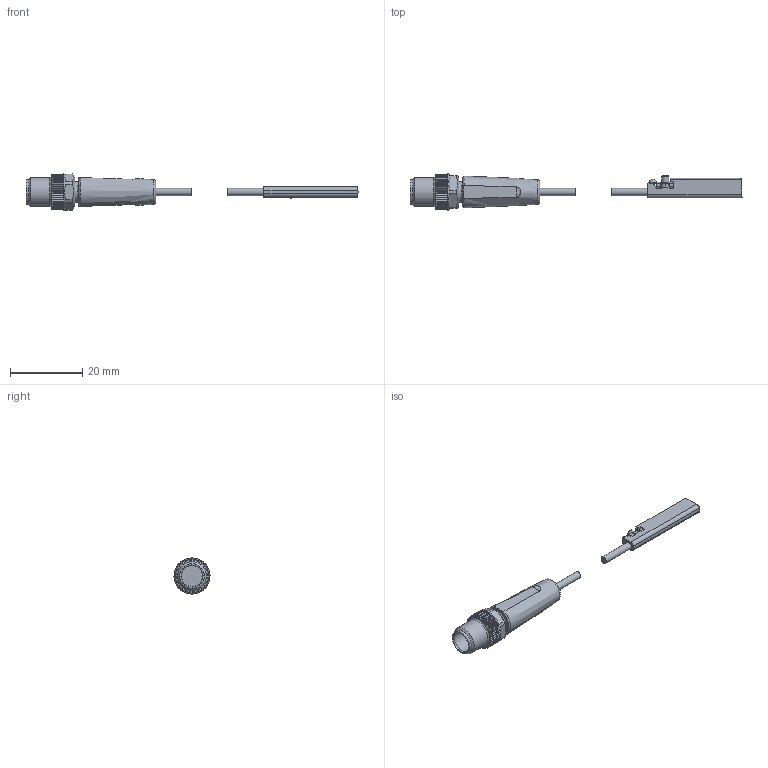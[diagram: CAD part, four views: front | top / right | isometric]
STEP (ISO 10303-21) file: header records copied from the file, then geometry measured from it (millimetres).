
FILE_DESCRIPTION( ( 'STEP AP203' ), '1' );
FILE_NAME( 'p:/temp/worker_58/temp/exporttempdir_3876_1064_go3dc/format_1/MK5337.stp', '2022-02-09T09:55:33', ( 'License CC BY-ND 4.0' ), ( 'CADENAS' ), ' ', 'PARTsolutions', ' ' );
FILE_SCHEMA( ( 'CONFIG_CONTROL_DESIGN' ) );
Length unit declared in the file: millimetre
Products named in the file (3): MK5337; _MK5337_P1; _MK5337_P2
Assembly tree (2 placements, depth 2):
  MK5337
    _MK5337_P1
    _MK5337_P2
Bounding box: 92.1 x 10 x 10 mm (x, y, z)
Volume: 2153.8 mm3; surface area: 1809.5 mm2
Topology: 2 solids, 2 shells, 351 faces, 1012 edges, 668 vertices
Faces by surface type: plane 189, cylinder 143, torus 11, cone 6, bspline 1, sphere 1
Full cylindrical faces by diameter (mm): 2 x2, 5.7 x1, 5.8 x1, 6.85 x1, 8 x1, 10 x1
Entity records: 13404 total; most frequent: CARTESIAN_POINT 4488, ORIENTED_EDGE 1968, DIRECTION 1655, EDGE_CURVE 984, VERTEX_POINT 661, AXIS2_PLACEMENT_3D 562, LINE 531, VECTOR 531
